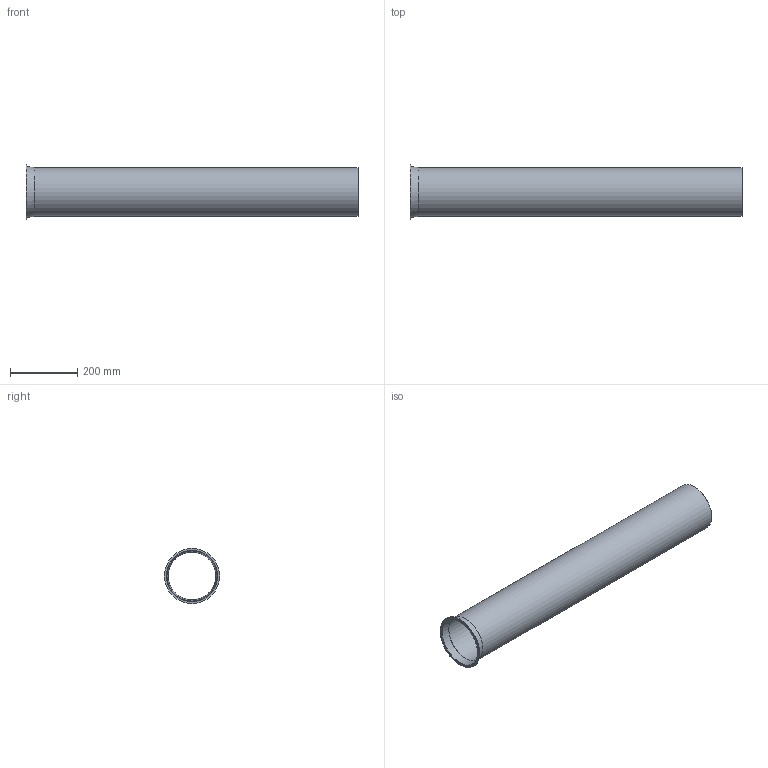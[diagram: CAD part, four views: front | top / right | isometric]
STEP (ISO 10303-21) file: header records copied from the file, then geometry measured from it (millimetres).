
FILE_DESCRIPTION((''),'2;1');
FILE_NAME('U:\Wolfgang\Marcel-3D\fertig\Kapitel 1\1511006.stp','2010-05-31T11:09:01',('TK2'),(''),'Autodesk Inventor 2010','Autodesk Inventor 2010','');
FILE_SCHEMA(('AUTOMOTIVE_DESIGN { 1 0 10303 214 1 1 1 1 }'));
Length unit declared in the file: millimetre
Products named in the file (1): 1511006
Bounding box: 991 x 165 x 165 mm (x, y, z)
Volume: 903343.8 mm3; surface area: 905274.3 mm2
Topology: 1 solids, 1 shells, 8 faces, 14 edges, 9 vertices
Faces by surface type: cylinder 3, plane 3, cone 2
Full cylindrical faces by diameter (mm): 142 x1, 146 x1, 165 x1
Entity records: 194 total; most frequent: DIRECTION 34, CARTESIAN_POINT 25, AXIS2_PLACEMENT_3D 17, ORIENTED_EDGE 16, EDGE_LOOP 16, VERTEX_POINT 8, CIRCLE 8, EDGE_CURVE 8
